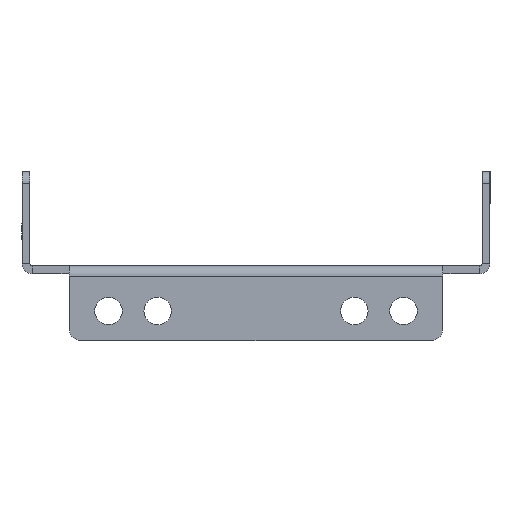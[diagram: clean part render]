
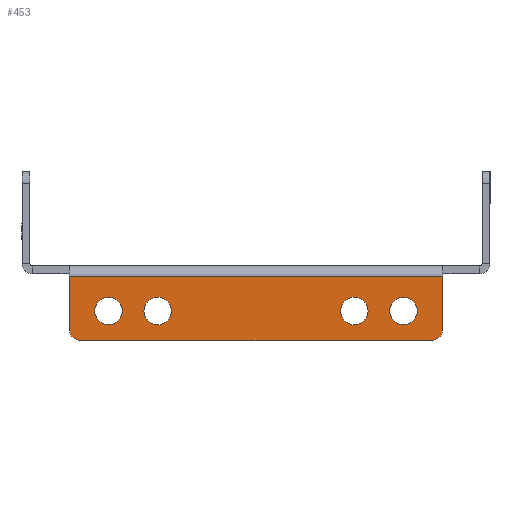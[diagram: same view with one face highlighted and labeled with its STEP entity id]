
A CAD part, left-side view. The second image highlights one B-rep face of the part: STEP entity #453.
In plain terms, the highlighted planar face has unit normal (-1, 0, 0).
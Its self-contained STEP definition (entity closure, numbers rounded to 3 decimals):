
#37 = CARTESIAN_POINT ( 'NONE',  ( -150., 37.5, -9.5 ) ) ;
#60 = FACE_BOUND ( 'NONE', #3984, .T. ) ;
#62 = DIRECTION ( 'NONE',  ( 0., 0., -1. ) ) ;
#75 = CARTESIAN_POINT ( 'NONE',  ( -150., 25., -9.5 ) ) ;
#168 = ORIENTED_EDGE ( 'NONE', *, *, #3224, .F. ) ;
#201 = LINE ( 'NONE', #2532, #542 ) ;
#210 = DIRECTION ( 'NONE',  ( -1., 0., 0. ) ) ;
#214 = CARTESIAN_POINT ( 'NONE',  ( -150., -37.5, -6. ) ) ;
#215 = EDGE_CURVE ( 'NONE', #2361, #2888, #3623, .T. ) ;
#231 = ORIENTED_EDGE ( 'NONE', *, *, #1672, .F. ) ;
#264 = CIRCLE ( 'NONE', #547, 3.5 ) ;
#270 = ORIENTED_EDGE ( 'NONE', *, *, #2512, .F. ) ;
#338 = CARTESIAN_POINT ( 'NONE',  ( -150., -37.5, -13. ) ) ;
#356 = CARTESIAN_POINT ( 'NONE',  ( -150., 47.5, -0.6 ) ) ;
#389 = LINE ( 'NONE', #4101, #3388 ) ;
#429 = CARTESIAN_POINT ( 'NONE',  ( -150., 37.5, -6. ) ) ;
#438 = VERTEX_POINT ( 'NONE', #457 ) ;
#453 = ADVANCED_FACE ( 'NONE', ( #2709, #2731, #4034, #60, #3752 ), #1038, .T. ) ;
#457 = CARTESIAN_POINT ( 'NONE',  ( -150., 37.5, -13. ) ) ;
#477 = CARTESIAN_POINT ( 'NONE',  ( -150., -25., -9.5 ) ) ;
#492 = AXIS2_PLACEMENT_3D ( 'NONE', #2094, #2372, #716 ) ;
#529 = DIRECTION ( 'NONE',  ( -1., 0., 0. ) ) ;
#542 = VECTOR ( 'NONE', #2510, 1000. ) ;
#547 = AXIS2_PLACEMENT_3D ( 'NONE', #477, #2147, #62 ) ;
#550 = EDGE_LOOP ( 'NONE', ( #1236, #1600, #168, #957, #672, #3148 ) ) ;
#553 = CARTESIAN_POINT ( 'NONE',  ( -150., -37.5, -9.5 ) ) ;
#633 = EDGE_CURVE ( 'NONE', #2695, #2689, #3847, .T. ) ;
#666 = DIRECTION ( 'NONE',  ( -1., 0., 0. ) ) ;
#672 = ORIENTED_EDGE ( 'NONE', *, *, #1812, .F. ) ;
#705 = CARTESIAN_POINT ( 'NONE',  ( -150., 37.5, -9.5 ) ) ;
#712 = DIRECTION ( 'NONE',  ( 0., 0., 1. ) ) ;
#716 = DIRECTION ( 'NONE',  ( 0., 0., 1. ) ) ;
#762 = CARTESIAN_POINT ( 'NONE',  ( -150., -44.5, -14. ) ) ;
#865 = CIRCLE ( 'NONE', #2605, 3.5 ) ;
#883 = CARTESIAN_POINT ( 'NONE',  ( -150., 25., -9.5 ) ) ;
#922 = ORIENTED_EDGE ( 'NONE', *, *, #2563, .F. ) ;
#957 = ORIENTED_EDGE ( 'NONE', *, *, #2445, .T. ) ;
#1001 = CARTESIAN_POINT ( 'NONE',  ( -150., 44.5, -17. ) ) ;
#1031 = EDGE_LOOP ( 'NONE', ( #3914, #2633 ) ) ;
#1036 = VERTEX_POINT ( 'NONE', #214 ) ;
#1038 = PLANE ( 'NONE',  #492 ) ;
#1061 = VERTEX_POINT ( 'NONE', #1805 ) ;
#1135 = VECTOR ( 'NONE', #1376, 1000. ) ;
#1142 = DIRECTION ( 'NONE',  ( -1., 0., 0. ) ) ;
#1220 = ORIENTED_EDGE ( 'NONE', *, *, #4077, .F. ) ;
#1236 = ORIENTED_EDGE ( 'NONE', *, *, #3920, .F. ) ;
#1242 = CIRCLE ( 'NONE', #3073, 3.5 ) ;
#1376 = DIRECTION ( 'NONE',  ( 0., 1., 0. ) ) ;
#1384 = EDGE_LOOP ( 'NONE', ( #231, #3257 ) ) ;
#1500 = CARTESIAN_POINT ( 'NONE',  ( -150., -47.5, -14. ) ) ;
#1556 = DIRECTION ( 'NONE',  ( 0., 0., 1. ) ) ;
#1600 = ORIENTED_EDGE ( 'NONE', *, *, #1729, .T. ) ;
#1672 = EDGE_CURVE ( 'NONE', #2689, #2695, #264, .T. ) ;
#1674 = EDGE_LOOP ( 'NONE', ( #1220, #922 ) ) ;
#1685 = ORIENTED_EDGE ( 'NONE', *, *, #3657, .F. ) ;
#1698 = CARTESIAN_POINT ( 'NONE',  ( -150., 25., -13. ) ) ;
#1729 = EDGE_CURVE ( 'NONE', #2282, #2249, #2569, .T. ) ;
#1748 = AXIS2_PLACEMENT_3D ( 'NONE', #2866, #2488, #3824 ) ;
#1805 = CARTESIAN_POINT ( 'NONE',  ( -150., -47.5, -0.6 ) ) ;
#1812 = EDGE_CURVE ( 'NONE', #2361, #3952, #201, .T. ) ;
#1826 = AXIS2_PLACEMENT_3D ( 'NONE', #37, #2346, #712 ) ;
#1909 = CIRCLE ( 'NONE', #3997, 3.5 ) ;
#1999 = DIRECTION ( 'NONE',  ( 0., 0., 1. ) ) ;
#2008 = VERTEX_POINT ( 'NONE', #338 ) ;
#2094 = CARTESIAN_POINT ( 'NONE',  ( -150., 47.5, 0. ) ) ;
#2108 = LINE ( 'NONE', #356, #1135 ) ;
#2116 = LINE ( 'NONE', #2484, #2229 ) ;
#2125 = CIRCLE ( 'NONE', #3526, 3.5 ) ;
#2147 = DIRECTION ( 'NONE',  ( -1., 0., 0. ) ) ;
#2196 = DIRECTION ( 'NONE',  ( -1., 0., 0. ) ) ;
#2229 = VECTOR ( 'NONE', #3458, 1000. ) ;
#2249 = VERTEX_POINT ( 'NONE', #1500 ) ;
#2282 = VERTEX_POINT ( 'NONE', #3982 ) ;
#2346 = DIRECTION ( 'NONE',  ( -1., 0., 0. ) ) ;
#2361 = VERTEX_POINT ( 'NONE', #3340 ) ;
#2372 = DIRECTION ( 'NONE',  ( -1., 0., 0. ) ) ;
#2445 = EDGE_CURVE ( 'NONE', #1061, #3952, #2108, .T. ) ;
#2484 = CARTESIAN_POINT ( 'NONE',  ( -150., 47.5, -17. ) ) ;
#2488 = DIRECTION ( 'NONE',  ( -1., 0., 0. ) ) ;
#2498 = CARTESIAN_POINT ( 'NONE',  ( -150., -37.5, -9.5 ) ) ;
#2499 = AXIS2_PLACEMENT_3D ( 'NONE', #762, #4153, #3753 ) ;
#2510 = DIRECTION ( 'NONE',  ( 0., 0., 1. ) ) ;
#2512 = EDGE_CURVE ( 'NONE', #438, #3830, #1909, .T. ) ;
#2532 = CARTESIAN_POINT ( 'NONE',  ( -150., 47.5, 0. ) ) ;
#2558 = CARTESIAN_POINT ( 'NONE',  ( -150., 44.5, -14. ) ) ;
#2563 = EDGE_CURVE ( 'NONE', #3174, #2729, #3931, .T. ) ;
#2567 = EDGE_CURVE ( 'NONE', #2008, #1036, #2125, .T. ) ;
#2569 = CIRCLE ( 'NONE', #2499, 3. ) ;
#2605 = AXIS2_PLACEMENT_3D ( 'NONE', #553, #210, #3176 ) ;
#2633 = ORIENTED_EDGE ( 'NONE', *, *, #2567, .F. ) ;
#2636 = EDGE_CURVE ( 'NONE', #1036, #2008, #865, .T. ) ;
#2689 = VERTEX_POINT ( 'NONE', #3494 ) ;
#2695 = VERTEX_POINT ( 'NONE', #4165 ) ;
#2709 = FACE_BOUND ( 'NONE', #1031, .T. ) ;
#2729 = VERTEX_POINT ( 'NONE', #3261 ) ;
#2730 = DIRECTION ( 'NONE',  ( 0., 0., -1. ) ) ;
#2731 = FACE_BOUND ( 'NONE', #1384, .T. ) ;
#2866 = CARTESIAN_POINT ( 'NONE',  ( -150., -25., -9.5 ) ) ;
#2888 = VERTEX_POINT ( 'NONE', #1001 ) ;
#3073 = AXIS2_PLACEMENT_3D ( 'NONE', #75, #666, #1999 ) ;
#3077 = DIRECTION ( 'NONE',  ( -1., 0., 0. ) ) ;
#3148 = ORIENTED_EDGE ( 'NONE', *, *, #215, .T. ) ;
#3174 = VERTEX_POINT ( 'NONE', #1698 ) ;
#3176 = DIRECTION ( 'NONE',  ( 0., 0., -1. ) ) ;
#3224 = EDGE_CURVE ( 'NONE', #1061, #2249, #389, .T. ) ;
#3257 = ORIENTED_EDGE ( 'NONE', *, *, #633, .F. ) ;
#3261 = CARTESIAN_POINT ( 'NONE',  ( -150., 25., -6. ) ) ;
#3340 = CARTESIAN_POINT ( 'NONE',  ( -150., 47.5, -14. ) ) ;
#3388 = VECTOR ( 'NONE', #2730, 1000. ) ;
#3458 = DIRECTION ( 'NONE',  ( 0., 1., 0. ) ) ;
#3473 = DIRECTION ( 'NONE',  ( 0., 0., -1. ) ) ;
#3494 = CARTESIAN_POINT ( 'NONE',  ( -150., -25., -6. ) ) ;
#3510 = DIRECTION ( 'NONE',  ( 0., 0., 1. ) ) ;
#3526 = AXIS2_PLACEMENT_3D ( 'NONE', #2498, #1142, #3473 ) ;
#3623 = CIRCLE ( 'NONE', #3967, 3. ) ;
#3657 = EDGE_CURVE ( 'NONE', #3830, #438, #3811, .T. ) ;
#3752 = FACE_OUTER_BOUND ( 'NONE', #550, .T. ) ;
#3753 = DIRECTION ( 'NONE',  ( 0., 0., 1. ) ) ;
#3811 = CIRCLE ( 'NONE', #1826, 3.5 ) ;
#3824 = DIRECTION ( 'NONE',  ( 0., 0., -1. ) ) ;
#3830 = VERTEX_POINT ( 'NONE', #429 ) ;
#3847 = CIRCLE ( 'NONE', #1748, 3.5 ) ;
#3914 = ORIENTED_EDGE ( 'NONE', *, *, #2636, .F. ) ;
#3920 = EDGE_CURVE ( 'NONE', #2282, #2888, #2116, .T. ) ;
#3931 = CIRCLE ( 'NONE', #4223, 3.5 ) ;
#3952 = VERTEX_POINT ( 'NONE', #4259 ) ;
#3967 = AXIS2_PLACEMENT_3D ( 'NONE', #2558, #529, #3510 ) ;
#3982 = CARTESIAN_POINT ( 'NONE',  ( -150., -44.5, -17. ) ) ;
#3984 = EDGE_LOOP ( 'NONE', ( #1685, #270 ) ) ;
#3997 = AXIS2_PLACEMENT_3D ( 'NONE', #705, #3077, #4025 ) ;
#4025 = DIRECTION ( 'NONE',  ( 0., 0., 1. ) ) ;
#4034 = FACE_BOUND ( 'NONE', #1674, .T. ) ;
#4077 = EDGE_CURVE ( 'NONE', #2729, #3174, #1242, .T. ) ;
#4101 = CARTESIAN_POINT ( 'NONE',  ( -150., -47.5, -17. ) ) ;
#4153 = DIRECTION ( 'NONE',  ( -1., 0., 0. ) ) ;
#4165 = CARTESIAN_POINT ( 'NONE',  ( -150., -25., -13. ) ) ;
#4223 = AXIS2_PLACEMENT_3D ( 'NONE', #883, #2196, #1556 ) ;
#4259 = CARTESIAN_POINT ( 'NONE',  ( -150., 47.5, -0.6 ) ) ;
